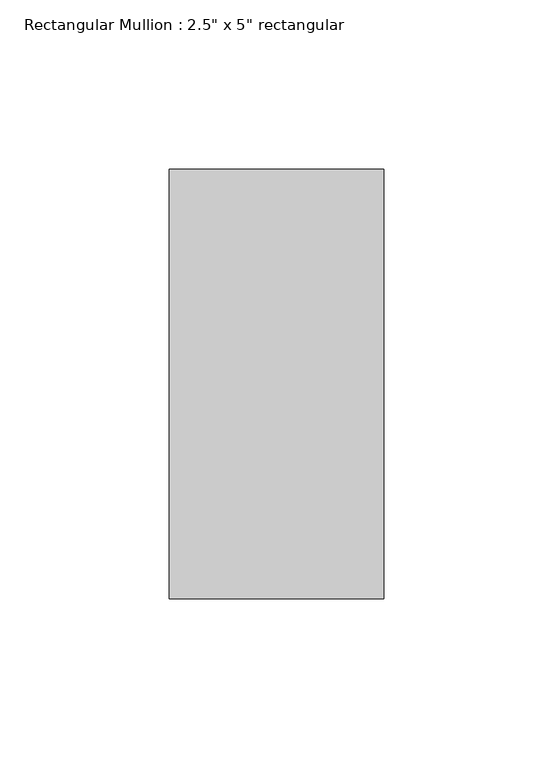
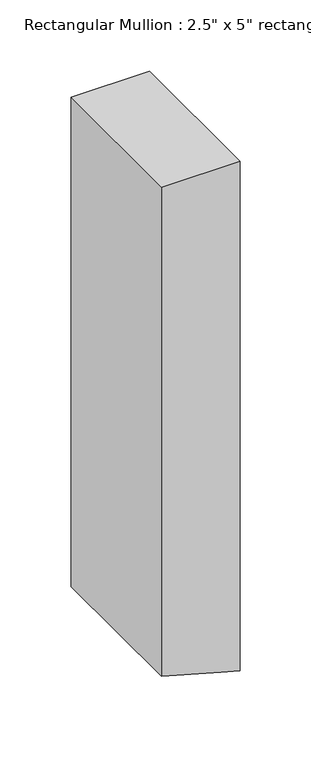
"""IFC4 building model written with IfcOpenShell, lengths in millimetres: member geometry."""

from ifc_helpers import new_model, si_unit, frame, origin, place, context, project, spatial, circle_curve, source, transform, mapped, element, save
from ifc_brep_helpers import plane_surface, cylinder_surface, advanced_brep


def member_93b63755(model_context):
    return source(origin(), model_context, "Body", "AdvancedBrep", [
        advanced_brep(
        [(31.75, 63.5, 0.0), (-31.75, 63.5, 0.0), (-31.75, -63.5, 0.0), (31.75, -63.5, 0.0), (31.75, 63.5, -436.8225022), (16.5451442, 63.5, -432.7541135), (-31.75, 63.5, -419.3647835), (-31.75, -63.5, -419.3647835), (16.5451442, -63.5, -432.7541135), (31.75, -63.5, -436.8225022)],
        [
            (0, 1),
            (1, 2),
            (2, 3),
            (3, 0),
            (0, 4),
            (4, 5, circle_curve(frame((969.8308928, 63.5, 3099.5300218), z_axis=(0.0, 1.0, 0.0), x_axis=(0.25806773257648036, 0.0, -0.9661268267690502)), 3658.6588985)),
            (5, 6, circle_curve(frame((969.8308928, 63.5, 3099.5300218), z_axis=(0.0, 1.0, 0.0), x_axis=(-0.2605560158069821, 0.0, -0.9654587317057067)), 3658.6588985)),
            (6, 1),
            (6, 7),
            (7, 2),
            (7, 8, circle_curve(frame((969.8308928, -63.5, 3099.5300218), z_axis=(0.0, -1.0, 0.0), x_axis=(-0.2605560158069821, 0.0, -0.9654587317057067)), 3658.6588985)),
            (8, 9, circle_curve(frame((969.8308928, -63.5, 3099.5300218), z_axis=(0.0, -1.0, 0.0), x_axis=(0.25806773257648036, 0.0, -0.9661268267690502)), 3658.6588985)),
            (9, 3),
            (9, 4),
            (8, 5),
        ],
        [
            plane_surface(frame((0.0, -70.9951583, 0.0), z_axis=(0.0, 0.0, 1.0), x_axis=(-1.0, 0.0, 0.0))),
            plane_surface(frame((31.75, 63.5, 0.0), z_axis=(0.0, 1.0, 0.0), x_axis=(0.0, 0.0, -1.0))),
            plane_surface(frame((-31.75, 63.5, 0.0), z_axis=(-1.0, 0.0, 0.0), x_axis=(0.0, 0.0, -1.0))),
            plane_surface(frame((-31.75, -63.5, 0.0), z_axis=(0.0, -1.0, 0.0), x_axis=(0.0, 0.0, -1.0))),
            plane_surface(frame((31.75, -63.5, 0.0), z_axis=(1.0, 0.0, 0.0), x_axis=(0.0, 0.0, -1.0))),
            cylinder_surface(frame((969.8308928, 0.0, 3099.5300218), z_axis=(0.0, 1.0, 0.0), x_axis=(0.25806773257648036, 0.0, -0.9661268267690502)), 3658.6588985),
            cylinder_surface(frame((969.8308928, 0.0, 3099.5300218), z_axis=(0.0, 1.0000000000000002, 0.0), x_axis=(-0.2605560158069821, 0.0, -0.9654587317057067)), 3658.6588985),
        ],
        [
            (0, [[1, 2, 3, 4]]),
            (1, [[-1, 5, 6, 7, 8]]),
            (2, [[-2, -8, 9, 10]]),
            (3, [[-3, -10, 11, 12, 13]]),
            (4, [[-4, -13, 14, -5]]),
            (5, [[-14, -12, 15, -6]]),
            (6, [[-11, -9, -7, -15]]),
        ],
    ),
    ])


if __name__ == "__main__":
    model = new_model("IFC4")
    model_context = context("Model", 3, world=origin())
    ifc_project = project(units=[si_unit("LENGTHUNIT", "METRE", prefix="MILLI")], contexts=[model_context])
    site = spatial("IfcSite", under=ifc_project)
    building = spatial("IfcBuilding", under=site)
    placement = place(None, origin())
    member_shape = member_93b63755(model_context)
    element("IfcMember", 1, ObjectType="Rectangular Mullion : 2.5\" x 5\" rectangular", at=placement, inside=building, context=model_context, shape_type="MappedRepresentation", body=[
        mapped(member_shape, transform((0.0, 0.0, 0.0), x_axis=(1.0, 0.0, 0.0), y_axis=(0.0, 1.0, 0.0), z_axis=(0.0, 0.0, 1.0))),
    ])
    save(model, "model.ifc")
